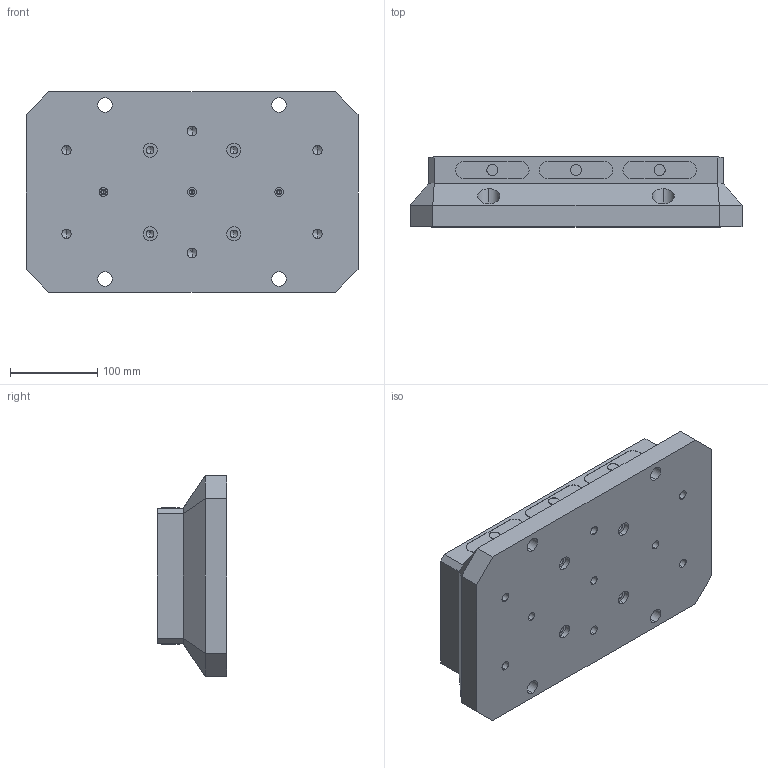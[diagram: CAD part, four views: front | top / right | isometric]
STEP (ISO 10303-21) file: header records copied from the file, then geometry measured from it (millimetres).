
FILE_DESCRIPTION (( 'STEP AP214' ), '1' );
FILE_NAME ('D_RL96A-3915.STEP', '2020-03-11T17:44:37', ( '' ), ( '' ), 'SwSTEP 2.0', 'SolidWorks 2018', '' );
FILE_SCHEMA (( 'AUTOMOTIVE_DESIGN' ));
Length unit declared in the file: millimetre
Products named in the file (3): D_RL96A-3915; D_R96-613VCU5; D_RL96A-3613S1
Assembly tree (2 placements, depth 2):
  D_RL96A-3915
    D_R96-613VCU5
    D_RL96A-3613S1
Bounding box: 381 x 80 x 230 mm (x, y, z)
Volume: 4947794.8 mm3; surface area: 471602.1 mm2
Topology: 2 solids, 2 shells, 555 faces, 1368 edges, 871 vertices
Faces by surface type: cylinder 332, plane 177, cone 46
Entity records: 19632 total; most frequent: CARTESIAN_POINT 4289, DIRECTION 3024, ORIENTED_EDGE 2644, EDGE_CURVE 1322, AXIS2_PLACEMENT_3D 1228, VERTEX_POINT 871, EDGE_LOOP 711, CIRCLE 668
